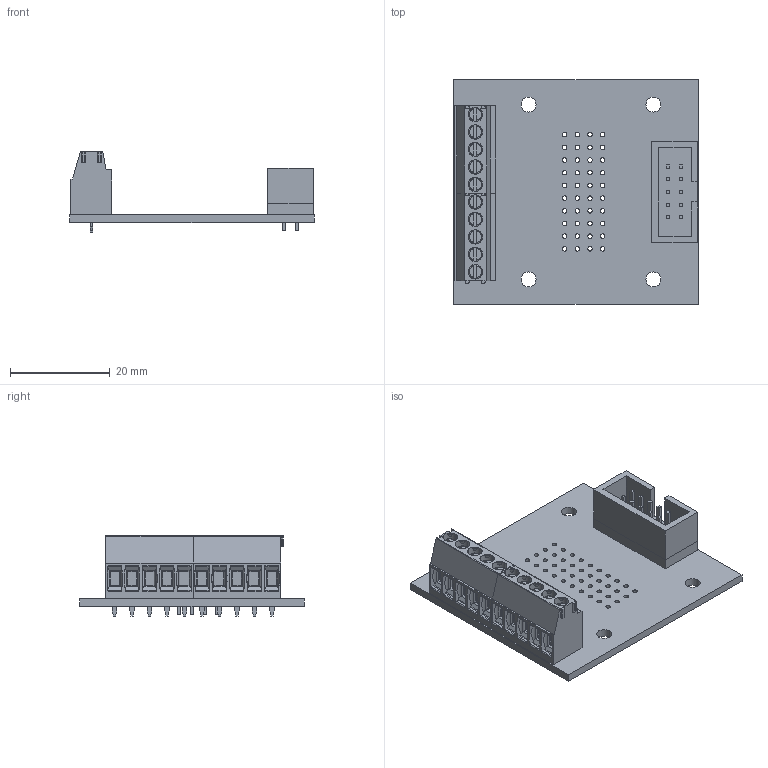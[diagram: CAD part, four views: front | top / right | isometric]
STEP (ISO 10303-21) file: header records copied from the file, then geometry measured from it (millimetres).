
FILE_DESCRIPTION(('Open CASCADE Model'),'2;1');
FILE_NAME('Open CASCADE Shape Model','2016-05-19T13:34:57',('Author'),( 'Open CASCADE'),'Open CASCADE STEP processor 6.8','Open CASCADE 6.8' ,'Unknown');
FILE_SCHEMA(('AUTOMOTIVE_DESIGN { 1 0 10303 214 1 1 1 1 }'));
Length unit declared in the file: millimetre
Products named in the file (12): PCB; Board; K1; mts05008; K2; P1; 635131768; Extruded; 635131632; 747570288
Assembly tree (21 placements, depth 4):
  PCB
    Board
    K1
      mts05008
    K2
      mts05008
    P1
      635131768  x10
        Extruded
      635131632
        Extruded
      747570288
        Extruded
Bounding box: 49 x 45 x 16.1 mm (x, y, z)
Volume: 7380.6 mm3; surface area: 9166.8 mm2
Topology: 15 solids, 15 shells, 868 faces, 2176 edges, 1424 vertices
Faces by surface type: plane 468, cylinder 340, torus 40, cone 20
Full cylindrical faces by diameter (mm): 0.9 x50, 1.1 x10, 3 x4
Entity records: 56740 total; most frequent: CARTESIAN_POINT 35026, DIRECTION 3326, ORIENTED_EDGE 2332, PCURVE 2332, DEFINITIONAL_REPRESENTATION 2332, LINE 1688, VECTOR 1688, B_SPLINE_CURVE_WITH_KNOTS 1262
